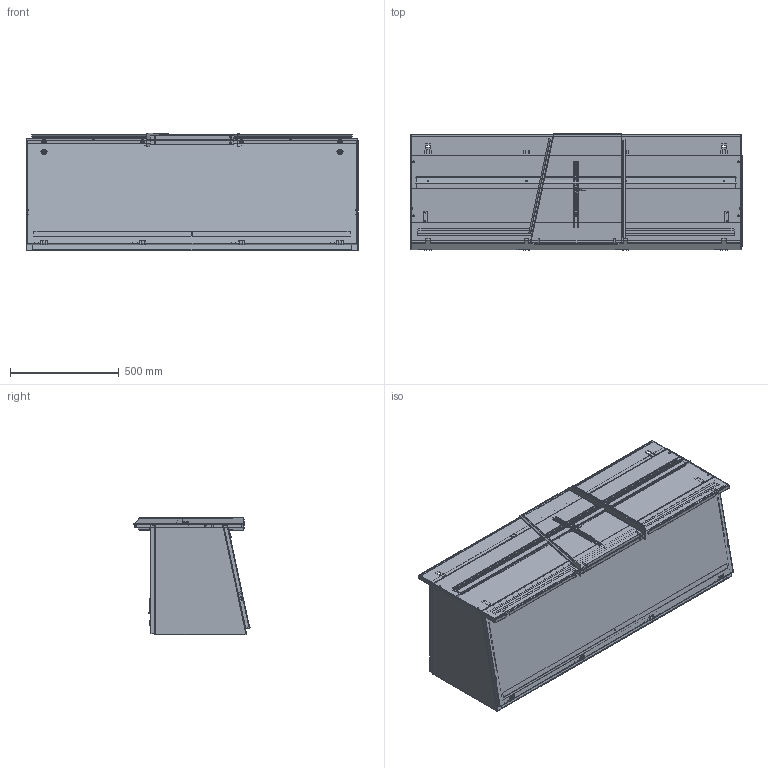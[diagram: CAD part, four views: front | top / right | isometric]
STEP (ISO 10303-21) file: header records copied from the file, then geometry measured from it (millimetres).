
FILE_DESCRIPTION( ( 'Unknown' ), '1' );
FILE_NAME( 'Q:/2000 SERIES/TURRET UNITS/WEB DRAWINGS/STEP/2CST206036.stp', 'Unknown', ( 'Unknown' ), ( 'Unknown' ), 'XStep 1.0', 'Unknown', ' ' );
FILE_SCHEMA( ( 'CONFIG_CONTROL_DESIGN' ) );
Length unit declared in the file: millimetre
Products named in the file (48): Assem1; Assem2; Assem3; Assem4; Assem5; Assem6; Assem7; Assem8; Assem9; Assem10; Assem11; Assem12; 1; 2; 3; 4; 5; 6; 7; 8; 9; 10; 11; 12; 13; 14; 15; 16; 17; 18; 19; 20; 21; 22; 23; 24; 25; 26; 27; 28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
Bounding box: 1524 x 533.07 x 538.94 mm (x, y, z)
Volume: 19081252.8 mm3; surface area: 21003806.8 mm2
Topology: 182 solids, 182 shells, 4075 faces, 9935 edges, 6368 vertices
Faces by surface type: plane 2681, cylinder 1096, bspline 226, cone 41, torus 21, sphere 10
Full cylindrical faces by diameter (mm): 3.175 x20, 4.763 x23, 4.826 x6, 5 x16, 5.537 x10, 5.969 x10, 6 x6, 6.096 x10, 6.299 x5, 6.35 x60, 7.137 x22, 7.925 x5, 7.938 x40, 8.331 x5, 9.804 x5, 9.83 x12, 9.931 x9, 10.312 x5, 11.1 x5, 12.7 x22, 12.751 x5, 13.335 x6, 15.875 x6, 16.002 x6, 19.5 x6, 19.939 x6, 25.4 x6
Entity records: 31448 total; most frequent: CARTESIAN_POINT 7447, DIRECTION 4420, ORIENTED_EDGE 4400, EDGE_CURVE 2200, LINE 1568, VECTOR 1568, VERTEX_POINT 1441, AXIS2_PLACEMENT_3D 1426
